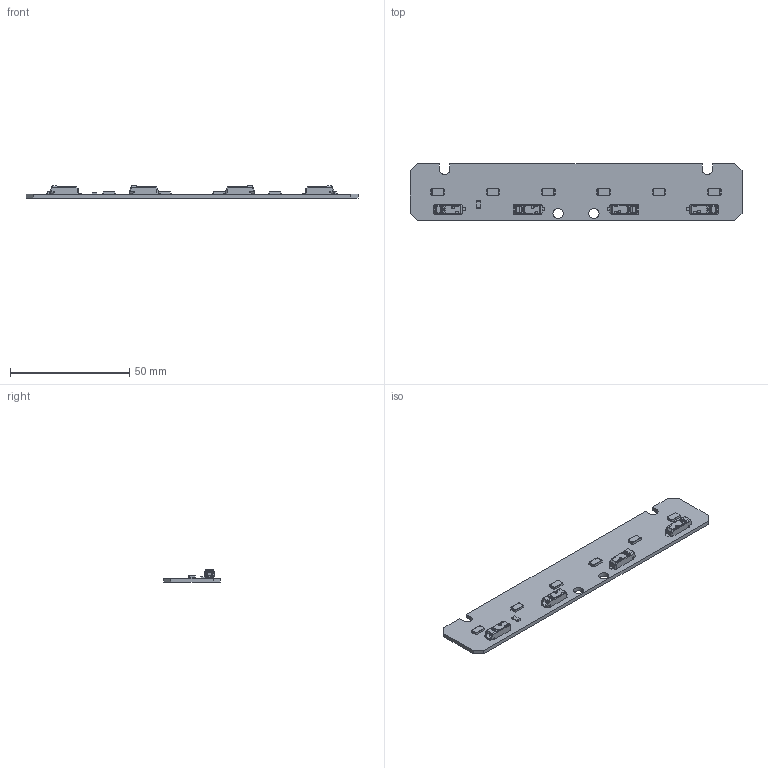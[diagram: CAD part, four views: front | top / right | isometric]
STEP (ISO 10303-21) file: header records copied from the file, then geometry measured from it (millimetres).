
FILE_DESCRIPTION((''),'2;1');
FILE_NAME('16206869_LLE-G4_24X140_325LM','2016-02-19T',('bernhard.fink'),(''),'PRO/ENGINEER BY PARAMETRIC TECHNOLOGY CORPORATION, 2015200','PRO/ENGINEER BY PARAMETRIC TECHNOLOGY CORPORATION, 2015200','');
FILE_SCHEMA(('AUTOMOTIVE_DESIGN { 1 0 10303 214 1 1 1 1 }'));
Products named in the file (1): 16206869_LLE-G4_24X140_325LM
Bounding box: 139 x 23.6 x 5.1 mm (x, y, z)
Volume: 5846.4 mm3; surface area: 7900.5 mm2
Topology: 1 solids, 1 shells, 1254 faces, 3292 edges, 2028 vertices
Faces by surface type: plane 536, cylinder 346, bspline 232, cone 68, torus 24, sphere 24, revolution 24
Entity records: 64709 total; most frequent: CARTESIAN_POINT 17544, ORIENTED_EDGE 6488, DIRECTION 5060, PRESENTATION_STYLE_ASSIGNMENT 4475, STYLED_ITEM 3269, CURVE_STYLE 3268, EDGE_CURVE 3244, VERTEX_POINT 2028
